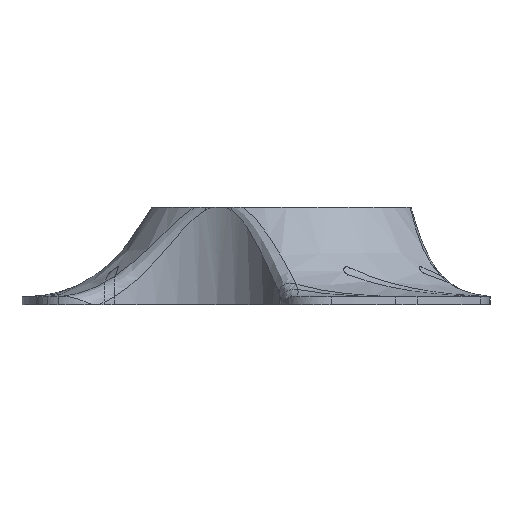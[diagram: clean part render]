
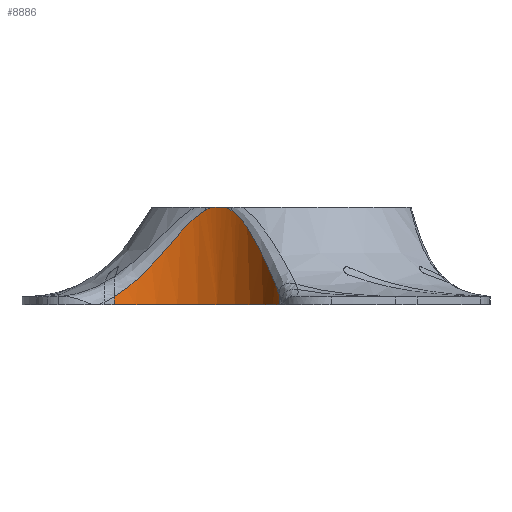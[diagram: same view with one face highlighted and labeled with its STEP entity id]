
A CAD part, front view. The second image highlights one B-rep face of the part: STEP entity #8886.
In plain terms, the highlighted cylindrical face has radius 25 mm (diameter 50 mm), a partial arc.
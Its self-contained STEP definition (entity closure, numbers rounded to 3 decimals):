
#43 = VERTEX_POINT ( 'NONE', #11532 ) ;
#74 = CARTESIAN_POINT ( 'NONE',  ( -17.059, 17.084, 19.599 ) ) ;
#227 = B_SPLINE_CURVE_WITH_KNOTS ( 'NONE', 3,
 ( #4487, #7143, #11538, #880, #74, #10758, #1872, #1916, #5385, #1044, #6203, #1798, #8041, #2689, #2735, #6435, #1114, #2890, #1196, #2034, #3003, #1075 ),
 .UNSPECIFIED., .F., .F.,
 ( 4, 2, 2, 2, 2, 2, 2, 2, 2, 2, 4 ),
 ( 0., 0.002, 0.003, 0.006, 0.009, 0.012, 0.016, 0.019, 0.02, 0.022, 0.025 ),
 .UNSPECIFIED. ) ;
#301 = CYLINDRICAL_SURFACE ( 'NONE', #4978, 25. ) ;
#432 = VECTOR ( 'NONE', #6513, 1000. ) ;
#483 = CARTESIAN_POINT ( 'NONE',  ( -4.535, 10.96, 28.923 ) ) ;
#553 = DIRECTION ( 'NONE',  ( 0., -1., 0. ) ) ;
#880 = CARTESIAN_POINT ( 'NONE',  ( -16.673, 17.406, 19.732 ) ) ;
#978 = CARTESIAN_POINT ( 'NONE',  ( -24.99, 19.01, 43.311 ) ) ;
#1044 = CARTESIAN_POINT ( 'NONE',  ( -22.348, 11.442, 18.442 ) ) ;
#1053 = DIRECTION ( 'NONE',  ( 0., -1., 0. ) ) ;
#1075 = CARTESIAN_POINT ( 'NONE',  ( -32.909, 1.546, 19.599 ) ) ;
#1114 = CARTESIAN_POINT ( 'NONE',  ( -28.771, 4.643, 18.596 ) ) ;
#1196 = CARTESIAN_POINT ( 'NONE',  ( -29.969, 3.628, 18.808 ) ) ;
#1293 = CARTESIAN_POINT ( 'NONE',  ( -10.932, 19.01, 22.638 ) ) ;
#1332 = CARTESIAN_POINT ( 'NONE',  ( -1.22, 3.477, 35.555 ) ) ;
#1360 = CARTESIAN_POINT ( 'NONE',  ( -7.625, 16.173, 25.31 ) ) ;
#1397 = CARTESIAN_POINT ( 'NONE',  ( -0.758, 2.283, 37.147 ) ) ;
#1411 = VERTEX_POINT ( 'NONE', #9787 ) ;
#1433 = CARTESIAN_POINT ( 'NONE',  ( -10.127, 18.509, 23.209 ) ) ;
#1459 = VERTEX_POINT ( 'NONE', #9577 ) ;
#1551 = ORIENTED_EDGE ( 'NONE', *, *, #4862, .T. ) ;
#1798 = CARTESIAN_POINT ( 'NONE',  ( -24.393, 9.084, 18.309 ) ) ;
#1814 = DIRECTION ( 'NONE',  ( 0., 1., 0. ) ) ;
#1872 = CARTESIAN_POINT ( 'NONE',  ( -18.903, 15.334, 19.053 ) ) ;
#1900 = EDGE_CURVE ( 'NONE', #8172, #6387, #2403, .T. ) ;
#1916 = CARTESIAN_POINT ( 'NONE',  ( -20.308, 13.804, 18.743 ) ) ;
#2034 = CARTESIAN_POINT ( 'NONE',  ( -31.207, 2.662, 19.082 ) ) ;
#2095 = CIRCLE ( 'NONE', #4378, 25. ) ;
#2190 = ORIENTED_EDGE ( 'NONE', *, *, #2874, .T. ) ;
#2280 = CARTESIAN_POINT ( 'NONE',  ( -4.918, 11.724, 28.393 ) ) ;
#2403 = B_SPLINE_CURVE_WITH_KNOTS ( 'NONE', 3,
 ( #5250, #3480, #5753, #8295 ),
 .UNSPECIFIED., .F., .F.,
 ( 4, 4 ),
 ( 0., 0.001 ),
 .UNSPECIFIED. ) ;
#2572 = DIRECTION ( 'NONE',  ( 0., -1., 0. ) ) ;
#2618 = ORIENTED_EDGE ( 'NONE', *, *, #9051, .T. ) ;
#2689 = CARTESIAN_POINT ( 'NONE',  ( -26.512, 6.797, 18.347 ) ) ;
#2735 = CARTESIAN_POINT ( 'NONE',  ( -27.243, 6.059, 18.401 ) ) ;
#2848 = ORIENTED_EDGE ( 'NONE', *, *, #1900, .T. ) ;
#2874 = EDGE_CURVE ( 'NONE', #1411, #43, #6188, .T. ) ;
#2890 = CARTESIAN_POINT ( 'NONE',  ( -29.563, 3.962, 18.73 ) ) ;
#2894 = B_SPLINE_CURVE_WITH_KNOTS ( 'NONE', 3,
 ( #5795, #1397, #7623, #6664, #1332, #5902, #8491, #7556, #8454, #483, #2280, #8524, #11232, #6700, #1360, #3170, #9301, #9412, #4077, #1433 ),
 .UNSPECIFIED., .F., .F.,
 ( 4, 2, 2, 2, 2, 2, 2, 2, 2, 4 ),
 ( 0.005, 0.006, 0.008, 0.011, 0.017, 0.02, 0.023, 0.026, 0.028, 0.029 ),
 .UNSPECIFIED. ) ;
#3003 = CARTESIAN_POINT ( 'NONE',  ( -32.049, 2.073, 19.311 ) ) ;
#3131 = DIRECTION ( 'NONE',  ( 1., 0., 0. ) ) ;
#3170 = CARTESIAN_POINT ( 'NONE',  ( -8.475, 17.142, 24.539 ) ) ;
#3480 = CARTESIAN_POINT ( 'NONE',  ( -10.394, 18.671, 23.012 ) ) ;
#3511 = VERTEX_POINT ( 'NONE', #7121 ) ;
#3534 = DIRECTION ( 'NONE',  ( -0.5, 0., 0.866 ) ) ;
#3634 = DIRECTION ( 'NONE',  ( 1., 0., 0. ) ) ;
#4077 = CARTESIAN_POINT ( 'NONE',  ( -9.754, 18.282, 23.485 ) ) ;
#4378 = AXIS2_PLACEMENT_3D ( 'NONE', #978, #1814, #3634 ) ;
#4487 = CARTESIAN_POINT ( 'NONE',  ( -15.013, 18.509, 20.389 ) ) ;
#4862 = EDGE_CURVE ( 'NONE', #8211, #3511, #8103, .T. ) ;
#4978 = AXIS2_PLACEMENT_3D ( 'NONE', #11121, #553, #3131 ) ;
#5126 = CARTESIAN_POINT ( 'NONE',  ( -10.127, 18.509, 23.209 ) ) ;
#5250 = CARTESIAN_POINT ( 'NONE',  ( -10.127, 18.509, 23.209 ) ) ;
#5299 = VECTOR ( 'NONE', #1053, 1000. ) ;
#5385 = CARTESIAN_POINT ( 'NONE',  ( -20.99, 13.018, 18.624 ) ) ;
#5711 = EDGE_CURVE ( 'NONE', #3511, #9056, #10581, .T. ) ;
#5753 = CARTESIAN_POINT ( 'NONE',  ( -10.662, 18.839, 22.822 ) ) ;
#5795 = CARTESIAN_POINT ( 'NONE',  ( -0.66, 2.012, 37.564 ) ) ;
#5902 = CARTESIAN_POINT ( 'NONE',  ( -1.608, 4.439, 34.427 ) ) ;
#6064 = AXIS2_PLACEMENT_3D ( 'NONE', #10639, #2572, #3534 ) ;
#6188 = B_SPLINE_CURVE_WITH_KNOTS ( 'NONE', 3,
 ( #10205, #9500, #6776, #9538 ),
 .UNSPECIFIED., .F., .F.,
 ( 4, 4 ),
 ( 0.002, 0.003 ),
 .UNSPECIFIED. ) ;
#6203 = CARTESIAN_POINT ( 'NONE',  ( -23.023, 10.65, 18.379 ) ) ;
#6218 = CARTESIAN_POINT ( 'NONE',  ( -0.66, 2.012, 37.564 ) ) ;
#6387 = VERTEX_POINT ( 'NONE', #1293 ) ;
#6433 = CARTESIAN_POINT ( 'NONE',  ( -0.66, 8.01, 37.564 ) ) ;
#6435 = CARTESIAN_POINT ( 'NONE',  ( -28.384, 4.992, 18.54 ) ) ;
#6513 = DIRECTION ( 'NONE',  ( 0., 1., 0. ) ) ;
#6664 = CARTESIAN_POINT ( 'NONE',  ( -1.096, 3.165, 35.945 ) ) ;
#6700 = CARTESIAN_POINT ( 'NONE',  ( -7.118, 15.466, 25.817 ) ) ;
#6776 = CARTESIAN_POINT ( 'NONE',  ( -14.708, 18.671, 20.521 ) ) ;
#6920 = CARTESIAN_POINT ( 'NONE',  ( -32.909, 0.01, 19.599 ) ) ;
#7121 = CARTESIAN_POINT ( 'NONE',  ( -0.66, 0.01, 37.564 ) ) ;
#7143 = CARTESIAN_POINT ( 'NONE',  ( -15.454, 18.274, 20.197 ) ) ;
#7218 = EDGE_CURVE ( 'NONE', #43, #1459, #227, .T. ) ;
#7394 = FACE_OUTER_BOUND ( 'NONE', #8078, .T. ) ;
#7470 = ORIENTED_EDGE ( 'NONE', *, *, #8159, .T. ) ;
#7556 = CARTESIAN_POINT ( 'NONE',  ( -2.781, 7.202, 31.742 ) ) ;
#7623 = CARTESIAN_POINT ( 'NONE',  ( -0.866, 2.569, 36.74 ) ) ;
#8041 = CARTESIAN_POINT ( 'NONE',  ( -25.087, 8.31, 18.301 ) ) ;
#8078 = EDGE_LOOP ( 'NONE', ( #11057, #11477, #1551, #11519, #7470, #2848, #2618, #2190 ) ) ;
#8103 = CIRCLE ( 'NONE', #6064, 25. ) ;
#8159 = EDGE_CURVE ( 'NONE', #9056, #8172, #2894, .T. ) ;
#8172 = VERTEX_POINT ( 'NONE', #5126 ) ;
#8211 = VERTEX_POINT ( 'NONE', #6920 ) ;
#8295 = CARTESIAN_POINT ( 'NONE',  ( -10.932, 19.01, 22.638 ) ) ;
#8454 = CARTESIAN_POINT ( 'NONE',  ( -3.44, 8.689, 30.571 ) ) ;
#8491 = CARTESIAN_POINT ( 'NONE',  ( -1.889, 5.112, 33.727 ) ) ;
#8524 = CARTESIAN_POINT ( 'NONE',  ( -5.736, 13.242, 27.351 ) ) ;
#8886 = ADVANCED_FACE ( 'NONE', ( #7394 ), #301, .F. ) ;
#9051 = EDGE_CURVE ( 'NONE', #6387, #1411, #2095, .T. ) ;
#9056 = VERTEX_POINT ( 'NONE', #6218 ) ;
#9060 = CARTESIAN_POINT ( 'NONE',  ( -32.909, 8.01, 19.599 ) ) ;
#9205 = EDGE_CURVE ( 'NONE', #1459, #8211, #9756, .T. ) ;
#9301 = CARTESIAN_POINT ( 'NONE',  ( -8.774, 17.45, 24.28 ) ) ;
#9412 = CARTESIAN_POINT ( 'NONE',  ( -9.413, 18.02, 23.753 ) ) ;
#9500 = CARTESIAN_POINT ( 'NONE',  ( -14.41, 18.839, 20.658 ) ) ;
#9538 = CARTESIAN_POINT ( 'NONE',  ( -15.013, 18.509, 20.389 ) ) ;
#9577 = CARTESIAN_POINT ( 'NONE',  ( -32.909, 1.546, 19.599 ) ) ;
#9756 = LINE ( 'NONE', #9060, #5299 ) ;
#9787 = CARTESIAN_POINT ( 'NONE',  ( -14.116, 19.01, 20.8 ) ) ;
#10205 = CARTESIAN_POINT ( 'NONE',  ( -14.116, 19.01, 20.8 ) ) ;
#10581 = LINE ( 'NONE', #6433, #432 ) ;
#10639 = CARTESIAN_POINT ( 'NONE',  ( -24.99, 0.01, 43.311 ) ) ;
#10758 = CARTESIAN_POINT ( 'NONE',  ( -18.188, 16.072, 19.241 ) ) ;
#11057 = ORIENTED_EDGE ( 'NONE', *, *, #7218, .T. ) ;
#11121 = CARTESIAN_POINT ( 'NONE',  ( -24.99, 23.503, 43.311 ) ) ;
#11232 = CARTESIAN_POINT ( 'NONE',  ( -6.171, 13.999, 26.839 ) ) ;
#11477 = ORIENTED_EDGE ( 'NONE', *, *, #9205, .T. ) ;
#11519 = ORIENTED_EDGE ( 'NONE', *, *, #5711, .T. ) ;
#11532 = CARTESIAN_POINT ( 'NONE',  ( -15.013, 18.509, 20.389 ) ) ;
#11538 = CARTESIAN_POINT ( 'NONE',  ( -15.87, 18.001, 20.03 ) ) ;
